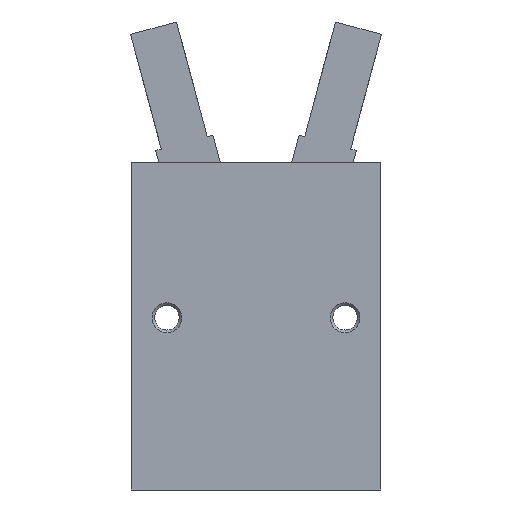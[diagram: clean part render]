
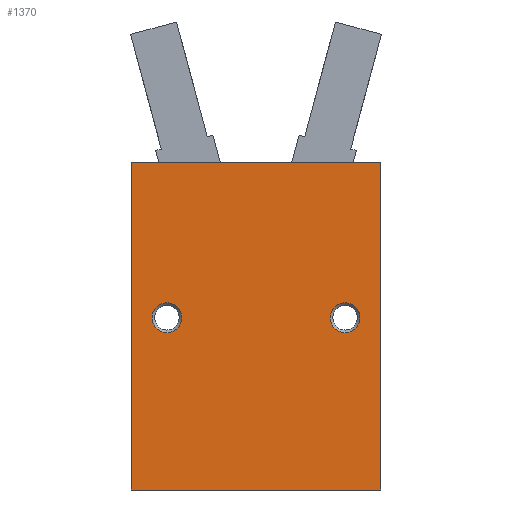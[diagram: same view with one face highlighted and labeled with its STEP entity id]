
A CAD part, front view. The second image highlights one B-rep face of the part: STEP entity #1370.
In plain terms, the highlighted planar face has unit normal (0, -1, 0).
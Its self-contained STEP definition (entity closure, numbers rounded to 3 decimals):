
#89=CIRCLE('',#1503,2.5);
#90=CIRCLE('',#1504,2.5);
#177=LINE('',#2140,#281);
#181=LINE('',#2149,#285);
#210=LINE('',#2216,#314);
#213=LINE('',#2225,#317);
#281=VECTOR('',#1707,1000.);
#285=VECTOR('',#1713,1000.);
#314=VECTOR('',#1774,1000.);
#317=VECTOR('',#1785,1000.);
#468=ORIENTED_EDGE('',*,*,#782,.T.);
#469=ORIENTED_EDGE('',*,*,#783,.T.);
#470=ORIENTED_EDGE('',*,*,#784,.T.);
#471=ORIENTED_EDGE('',*,*,#743,.F.);
#472=ORIENTED_EDGE('',*,*,#779,.F.);
#473=ORIENTED_EDGE('',*,*,#739,.T.);
#739=EDGE_CURVE('',#899,#898,#177,.T.);
#743=EDGE_CURVE('',#902,#903,#181,.T.);
#779=EDGE_CURVE('',#899,#902,#210,.T.);
#782=EDGE_CURVE('',#925,#925,#89,.T.);
#783=EDGE_CURVE('',#926,#926,#90,.T.);
#784=EDGE_CURVE('',#898,#903,#213,.T.);
#898=VERTEX_POINT('',#2139);
#899=VERTEX_POINT('',#2141);
#902=VERTEX_POINT('',#2148);
#903=VERTEX_POINT('',#2150);
#925=VERTEX_POINT('',#2222);
#926=VERTEX_POINT('',#2224);
#1029=EDGE_LOOP('',(#468));
#1030=EDGE_LOOP('',(#469));
#1031=EDGE_LOOP('',(#470,#471,#472,#473));
#1175=FACE_BOUND('',#1029,.T.);
#1176=FACE_BOUND('',#1030,.T.);
#1177=FACE_BOUND('',#1031,.T.);
#1323=PLANE('',#1502);
#1370=ADVANCED_FACE('',(#1175,#1176,#1177),#1323,.F.);
#1502=AXIS2_PLACEMENT_3D('',#2220,#1779,#1780);
#1503=AXIS2_PLACEMENT_3D('',#2221,#1781,#1782);
#1504=AXIS2_PLACEMENT_3D('',#2223,#1783,#1784);
#1707=DIRECTION('',(0.,0.,-1.));
#1713=DIRECTION('',(0.,0.,-1.));
#1774=DIRECTION('',(1.,0.,0.));
#1779=DIRECTION('',(0.,1.,0.));
#1780=DIRECTION('',(0.,0.,1.));
#1781=DIRECTION('',(0.,1.,0.));
#1782=DIRECTION('',(0.,0.,1.));
#1783=DIRECTION('',(0.,1.,0.));
#1784=DIRECTION('',(0.,0.,1.));
#1785=DIRECTION('',(1.,0.,0.));
#2139=CARTESIAN_POINT('',(-21.,-13.8,0.));
#2140=CARTESIAN_POINT('',(-21.,-13.8,55.2));
#2141=CARTESIAN_POINT('',(-21.,-13.8,55.2));
#2148=CARTESIAN_POINT('',(21.,-13.8,55.2));
#2149=CARTESIAN_POINT('',(21.,-13.8,55.2));
#2150=CARTESIAN_POINT('',(21.,-13.8,0.));
#2216=CARTESIAN_POINT('',(-21.,-13.8,55.2));
#2220=CARTESIAN_POINT('',(-21.,-13.8,55.2));
#2221=CARTESIAN_POINT('',(15.,-13.8,29.));
#2222=CARTESIAN_POINT('',(15.,-13.8,31.5));
#2223=CARTESIAN_POINT('',(-15.,-13.8,29.));
#2224=CARTESIAN_POINT('',(-15.,-13.8,31.5));
#2225=CARTESIAN_POINT('',(-21.,-13.8,0.));
